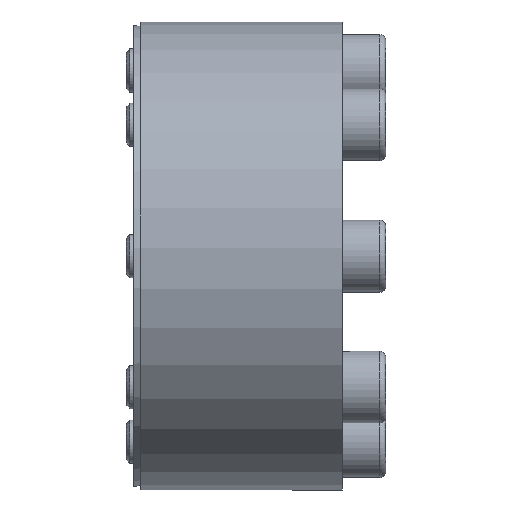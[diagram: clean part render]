
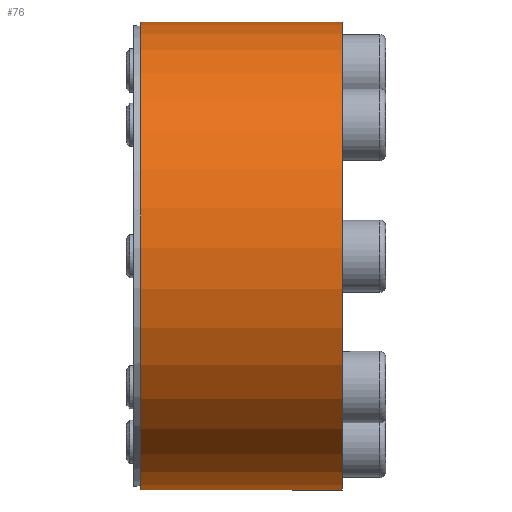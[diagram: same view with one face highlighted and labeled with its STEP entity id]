
A CAD part, left-side view. The second image highlights one B-rep face of the part: STEP entity #76.
In plain terms, the highlighted cylindrical face has radius 32.5 mm (diameter 65 mm), a partial arc.
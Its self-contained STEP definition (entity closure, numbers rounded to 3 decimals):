
#76 = ADVANCED_FACE( '', ( #162 ), #163, .T. );
#162 = FACE_OUTER_BOUND( '', #270, .T. );
#163 = CYLINDRICAL_SURFACE( '', #271, 32.5 );
#270 = EDGE_LOOP( '', ( #432, #433, #434, #435 ) );
#271 = AXIS2_PLACEMENT_3D( '', #436, #437, #438 );
#432 = ORIENTED_EDGE( '', *, *, #612, .T. );
#433 = ORIENTED_EDGE( '', *, *, #615, .T. );
#434 = ORIENTED_EDGE( '', *, *, #616, .T. );
#435 = ORIENTED_EDGE( '', *, *, #617, .T. );
#436 = CARTESIAN_POINT( '', ( 0., -60., 0. ) );
#437 = DIRECTION( '', ( 0., -1., 0. ) );
#438 = DIRECTION( '', ( 0., 0., 1. ) );
#612 = EDGE_CURVE( '', #755, #753, #756, .T. );
#615 = EDGE_CURVE( '', #753, #759, #760, .F. );
#616 = EDGE_CURVE( '', #759, #761, #762, .T. );
#617 = EDGE_CURVE( '', #761, #755, #763, .T. );
#753 = VERTEX_POINT( '', #1004 );
#755 = VERTEX_POINT( '', #1007 );
#756 = CIRCLE( '', #1008, 32.5 );
#759 = VERTEX_POINT( '', #1012 );
#760 = LINE( '', #1013, #1014 );
#761 = VERTEX_POINT( '', #1015 );
#762 = CIRCLE( '', #1016, 32.5 );
#763 = LINE( '', #1017, #1018 );
#1004 = CARTESIAN_POINT( '', ( 13.184, 13.5, 29.706 ) );
#1007 = CARTESIAN_POINT( '', ( 11.683, 13.5, 30.328 ) );
#1008 = AXIS2_PLACEMENT_3D( '', #1137, #1138, #1139 );
#1012 = CARTESIAN_POINT( '', ( 13.184, -14.5, 29.706 ) );
#1013 = CARTESIAN_POINT( '', ( 13.184, -60., 29.706 ) );
#1014 = VECTOR( '', #1141, 1000. );
#1015 = CARTESIAN_POINT( '', ( 11.683, -14.5, 30.328 ) );
#1016 = AXIS2_PLACEMENT_3D( '', #1142, #1143, #1144 );
#1017 = CARTESIAN_POINT( '', ( 11.683, -60., 30.328 ) );
#1018 = VECTOR( '', #1145, 1000. );
#1137 = CARTESIAN_POINT( '', ( 0., 13.5, 0. ) );
#1138 = DIRECTION( '', ( 0., -1., 0. ) );
#1139 = DIRECTION( '', ( 0., 0., -1. ) );
#1141 = DIRECTION( '', ( 0., 1., 0. ) );
#1142 = CARTESIAN_POINT( '', ( 0., -14.5, 0. ) );
#1143 = DIRECTION( '', ( 0., 1., 0. ) );
#1144 = DIRECTION( '', ( 0., 0., 1. ) );
#1145 = DIRECTION( '', ( 0., 1., 0. ) );
